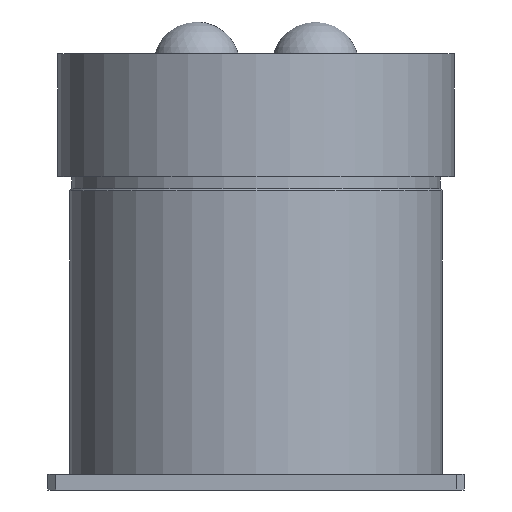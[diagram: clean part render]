
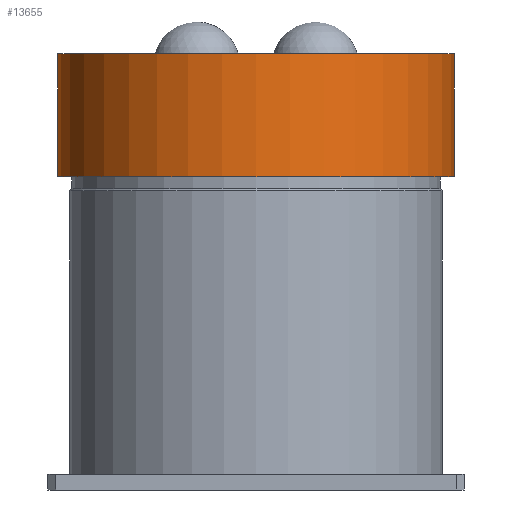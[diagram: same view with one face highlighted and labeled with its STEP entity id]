
A CAD part, left-side view. The second image highlights one B-rep face of the part: STEP entity #13655.
In plain terms, the highlighted cylindrical face has radius 50 mm (diameter 100 mm), a full revolution.
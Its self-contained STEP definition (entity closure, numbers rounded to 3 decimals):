
#3488=CYLINDRICAL_SURFACE('',#14162,50.);
#3975=FACE_BOUND('',#5588,.T.);
#4726=FACE_OUTER_BOUND('',#5587,.T.);
#5587=EDGE_LOOP('',(#12831));
#5588=EDGE_LOOP('',(#12832));
#5679=CIRCLE('',#14109,50.);
#5699=CIRCLE('',#14161,50.);
#6990=VERTEX_POINT('',#24281);
#7010=VERTEX_POINT('',#24353);
#8940=EDGE_CURVE('',#6990,#6990,#5679,.T.);
#8960=EDGE_CURVE('',#7010,#7010,#5699,.T.);
#12831=ORIENTED_EDGE('',*,*,#8960,.T.);
#12832=ORIENTED_EDGE('',*,*,#8940,.F.);
#13655=ADVANCED_FACE('',(#4726,#3975),#3488,.T.);
#14109=AXIS2_PLACEMENT_3D('',#24282,#16230,#16231);
#14161=AXIS2_PLACEMENT_3D('',#24354,#16334,#16335);
#14162=AXIS2_PLACEMENT_3D('',#24355,#16336,#16337);
#16230=DIRECTION('center_axis',(0.,0.,1.));
#16231=DIRECTION('ref_axis',(1.,0.,0.));
#16334=DIRECTION('center_axis',(0.,0.,1.));
#16335=DIRECTION('ref_axis',(1.,0.,0.));
#16336=DIRECTION('center_axis',(0.,0.,1.));
#16337=DIRECTION('ref_axis',(1.,0.,0.));
#24281=CARTESIAN_POINT('',(50.,0.,110.));
#24282=CARTESIAN_POINT('Origin',(0.,0.,110.));
#24353=CARTESIAN_POINT('',(50.,0.,79.));
#24354=CARTESIAN_POINT('Origin',(0.,0.,79.));
#24355=CARTESIAN_POINT('Origin',(0.,0.,94.5));
